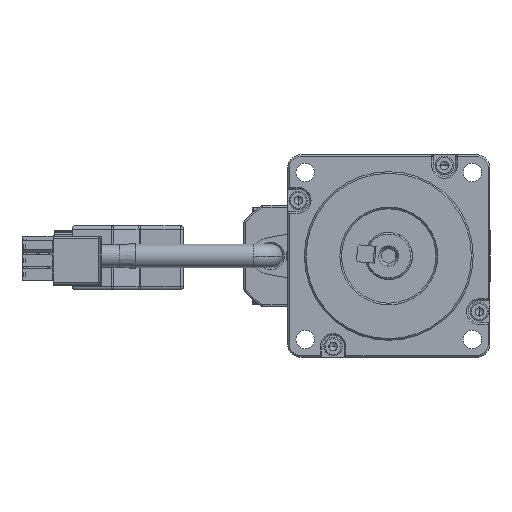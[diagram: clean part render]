
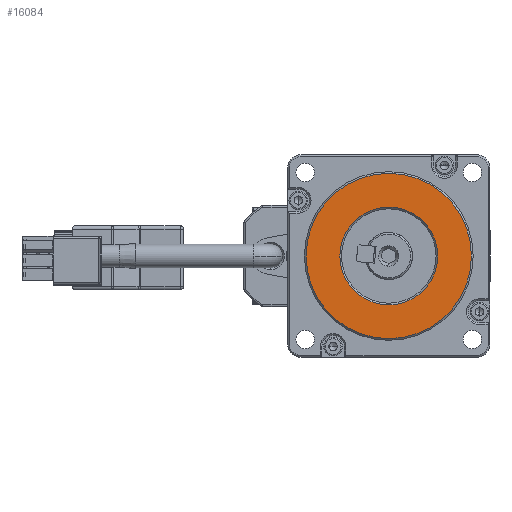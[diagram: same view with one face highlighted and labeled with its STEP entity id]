
A CAD part, left-side view. The second image highlights one B-rep face of the part: STEP entity #16084.
In plain terms, the highlighted planar face has unit normal (-1, 0, 0).
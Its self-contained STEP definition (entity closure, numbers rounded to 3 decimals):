
#171 = AXIS2_PLACEMENT_3D ( 'NONE', #1275, #25376, #4765 ) ;
#624 = EDGE_CURVE ( 'NONE', #38090, #10964, #37718, .T. ) ;
#922 = DIRECTION ( 'NONE',  ( -1., 0., 0. ) ) ;
#1275 = CARTESIAN_POINT ( 'NONE',  ( -5.4, 0., 0. ) ) ;
#3634 = CIRCLE ( 'NONE', #40011, 24.5 ) ;
#4087 = CARTESIAN_POINT ( 'NONE',  ( -5.4, 0., -24.5 ) ) ;
#4390 = CIRCLE ( 'NONE', #171, 14.5 ) ;
#4765 = DIRECTION ( 'NONE',  ( 0., 0., -1. ) ) ;
#5363 = FACE_OUTER_BOUND ( 'NONE', #22638, .T. ) ;
#6221 = ORIENTED_EDGE ( 'NONE', *, *, #624, .T. ) ;
#6463 = AXIS2_PLACEMENT_3D ( 'NONE', #40417, #19881, #43868 ) ;
#7003 = CIRCLE ( 'NONE', #28965, 14.5 ) ;
#8823 = VERTEX_POINT ( 'NONE', #41891 ) ;
#9021 = ORIENTED_EDGE ( 'NONE', *, *, #30155, .T. ) ;
#9503 = DIRECTION ( 'NONE',  ( -1., 0., 0. ) ) ;
#10964 = VERTEX_POINT ( 'NONE', #37618 ) ;
#12860 = EDGE_CURVE ( 'NONE', #10964, #38090, #3634, .T. ) ;
#13574 = EDGE_LOOP ( 'NONE', ( #20675, #9021 ) ) ;
#14959 = AXIS2_PLACEMENT_3D ( 'NONE', #21624, #922, #25039 ) ;
#15344 = CARTESIAN_POINT ( 'NONE',  ( -5.4, 0., 0. ) ) ;
#16084 = ADVANCED_FACE ( 'NONE', ( #21531, #5363 ), #16399, .F. ) ;
#16399 = PLANE ( 'NONE',  #6463 ) ;
#18839 = DIRECTION ( 'NONE',  ( 0., 0., -1. ) ) ;
#19881 = DIRECTION ( 'NONE',  ( 1., 0., 0. ) ) ;
#20675 = ORIENTED_EDGE ( 'NONE', *, *, #24740, .T. ) ;
#21531 = FACE_BOUND ( 'NONE', #13574, .T. ) ;
#21624 = CARTESIAN_POINT ( 'NONE',  ( -5.4, 0., 0. ) ) ;
#22638 = EDGE_LOOP ( 'NONE', ( #6221, #41915 ) ) ;
#24740 = EDGE_CURVE ( 'NONE', #8823, #35438, #4390, .T. ) ;
#25039 = DIRECTION ( 'NONE',  ( 0., 0., -1. ) ) ;
#25376 = DIRECTION ( 'NONE',  ( 1., 0., 0. ) ) ;
#28965 = AXIS2_PLACEMENT_3D ( 'NONE', #15344, #39380, #18839 ) ;
#30077 = CARTESIAN_POINT ( 'NONE',  ( -5.4, 0., 0. ) ) ;
#30155 = EDGE_CURVE ( 'NONE', #35438, #8823, #7003, .T. ) ;
#33525 = DIRECTION ( 'NONE',  ( 0., 0., -1. ) ) ;
#35438 = VERTEX_POINT ( 'NONE', #38041 ) ;
#37618 = CARTESIAN_POINT ( 'NONE',  ( -5.4, 0., 24.5 ) ) ;
#37718 = CIRCLE ( 'NONE', #14959, 24.5 ) ;
#38041 = CARTESIAN_POINT ( 'NONE',  ( -5.4, 0., -14.5 ) ) ;
#38090 = VERTEX_POINT ( 'NONE', #4087 ) ;
#39380 = DIRECTION ( 'NONE',  ( 1., 0., 0. ) ) ;
#40011 = AXIS2_PLACEMENT_3D ( 'NONE', #30077, #9503, #33525 ) ;
#40417 = CARTESIAN_POINT ( 'NONE',  ( -5.4, 0., 0. ) ) ;
#41891 = CARTESIAN_POINT ( 'NONE',  ( -5.4, 0., 14.5 ) ) ;
#41915 = ORIENTED_EDGE ( 'NONE', *, *, #12860, .T. ) ;
#43868 = DIRECTION ( 'NONE',  ( 0., 0., -1. ) ) ;
